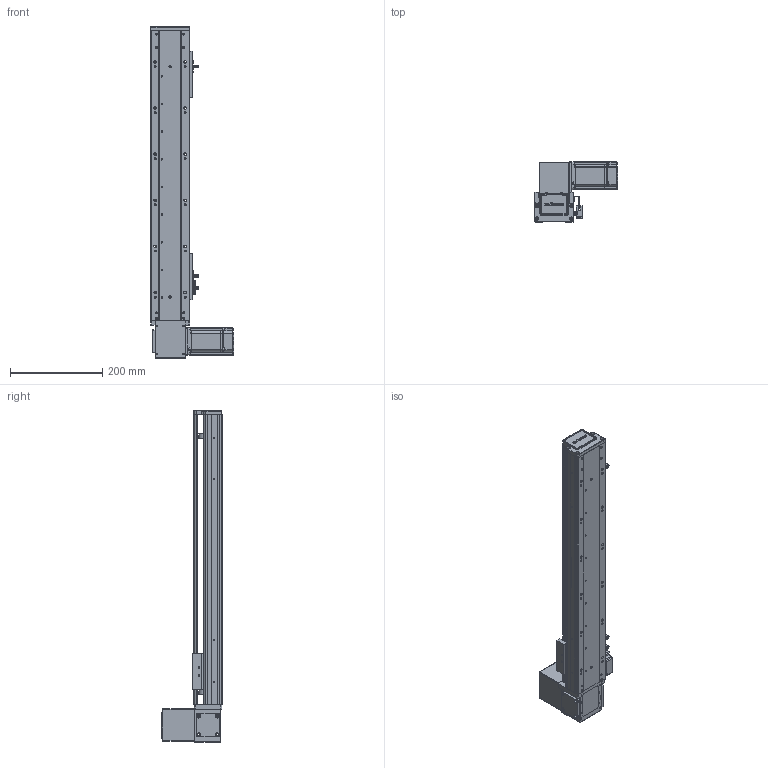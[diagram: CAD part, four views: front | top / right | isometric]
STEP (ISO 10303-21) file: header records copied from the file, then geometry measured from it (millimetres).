
FILE_DESCRIPTION (( 'STEP AP203' ), '1' );
FILE_NAME ('RY80-T-300-UR.SLDASM_450.step', '2021-03-01T02:25:52', ( '盈信电脑' ), ( '东莞市道滘镇水果街19号' ), 'SwSTEP 2.0', 'SolidWorks 2012', '' );
FILE_SCHEMA (( 'CONFIG_CONTROL_DESIGN' ));
Length unit declared in the file: millimetre
Products named in the file (20): RY80俋离覜茼え; 覜茼ん672; 672嫖萇羲壽假蚾釱; RY80-T肮祭謫臏賑輸; RY80-T-300-UR倰第奻裔啣_450; RY80-T綴裔啣; RY80-T-300-UR倰第菁釱_450; RY80-T萇儂假蚾啣; RY80-T-M4蹟翐2; RY80-T-300-UR.SLDASM_450; RY80-T翋肮祭謫裔啣; RY80-T-上下折同步轮盖板; 1; RY80-T肮祭謫奻殏俋欶; RY80-T粣創揤踡輸; RY80-T肮祭湍揤輸2; 滅袉蝶18-10; RY100-T粣創揤踡裔; RY80-T-翋肮祭謫釱; RY80-T肮祭湍揤輸1
Assembly tree (23 placements, depth 2):
  RY80-T-300-UR.SLDASM_450
    RY80-T-300-UR倰第菁釱_450
    RY80-T肮祭謫臏賑輸
    RY80-T-300-UR倰第奻裔啣_450
    RY80-T綴裔啣
    672嫖萇羲壽假蚾釱  x2
    覜茼ん672  x3
    RY80俋离覜茼え
    RY80-T-翋肮祭謫釱
    RY80-T肮祭湍揤輸1
    RY80-T肮祭湍揤輸2
    RY80-T粣創揤踡輸
    滅袉蝶18-10  x2
    RY100-T粣創揤踡裔
    RY80-T翋肮祭謫裔啣
    RY80-T-上下折同步轮盖板
    1
    RY80-T肮祭謫奻殏俋欶
    RY80-T-M4蹟翐2
    RY80-T萇儂假蚾啣
Bounding box: 180 x 130.5 x 720 mm (x, y, z)
Volume: 1477790.7 mm3; surface area: 595732.1 mm2
Topology: 23 solids, 23 shells, 2432 faces, 6686 edges, 4342 vertices
Faces by surface type: plane 1329, cylinder 907, cone 140, bspline 56
Entity records: 77102 total; most frequent: CARTESIAN_POINT 18338, ORIENTED_EDGE 12016, DIRECTION 11368, EDGE_CURVE 6008, VERTEX_POINT 3946, AXIS2_PLACEMENT_3D 3808, LINE 3752, VECTOR 3752
